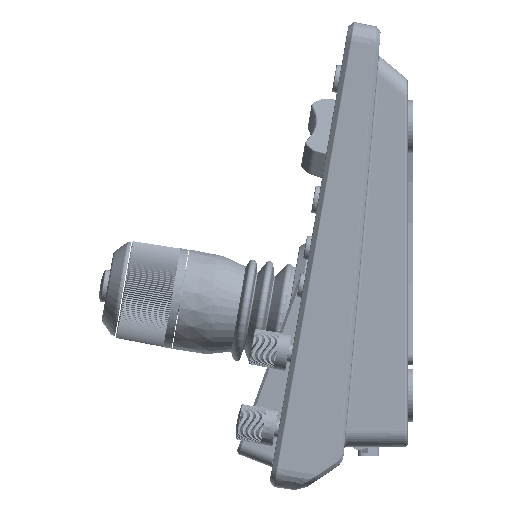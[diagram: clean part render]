
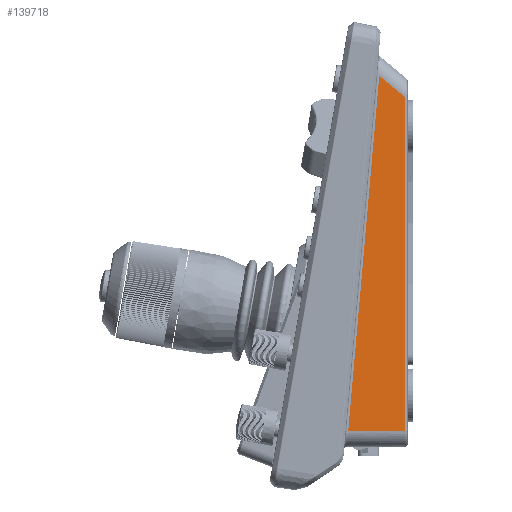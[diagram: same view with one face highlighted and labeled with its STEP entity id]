
A CAD part, left-side view. The second image highlights one B-rep face of the part: STEP entity #139718.
In plain terms, the highlighted planar face has unit normal (-0.999, -0.052, 0).
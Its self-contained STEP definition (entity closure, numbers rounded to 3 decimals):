
#10842=LINE('',#280560,#21297);
#10878=LINE('',#297259,#21333);
#10879=LINE('',#297685,#21334);
#10880=LINE('',#297687,#21335);
#21297=VECTOR('',#189549,126.533);
#21333=VECTOR('',#189771,135.186);
#21334=VECTOR('',#189780,12.722);
#21335=VECTOR('',#189783,21.577);
#33480=FACE_OUTER_BOUND('',#42426,.T.);
#42426=EDGE_LOOP('',(#119106,#119107,#119108,#119109));
#63424=VERTEX_POINT('',#280456);
#63425=VERTEX_POINT('',#280559);
#63566=VERTEX_POINT('',#297256);
#63567=VERTEX_POINT('',#297258);
#82361=EDGE_CURVE('',#63424,#63425,#10842,.T.);
#82569=EDGE_CURVE('',#63567,#63566,#10878,.T.);
#82574=EDGE_CURVE('',#63567,#63424,#10879,.T.);
#82575=EDGE_CURVE('',#63566,#63425,#10880,.T.);
#119106=ORIENTED_EDGE('',*,*,#82361,.F.);
#119107=ORIENTED_EDGE('',*,*,#82574,.F.);
#119108=ORIENTED_EDGE('',*,*,#82569,.T.);
#119109=ORIENTED_EDGE('',*,*,#82575,.T.);
#131936=PLANE('',#154768);
#139718=ADVANCED_FACE('',(#33480),#131936,.T.);
#154768=AXIS2_PLACEMENT_3D('',#297686,#189781,#189782);
#189549=DIRECTION('',(0.,0.,-1.));
#189771=DIRECTION('',(-0.005,0.087,-0.996));
#189780=DIRECTION('',(0.04,-0.768,-0.64));
#189781=DIRECTION('center_axis',(-0.999,-0.052,
0.));
#189782=DIRECTION('ref_axis',(0.,0.,-1.));
#189783=DIRECTION('',(0.052,-0.999,0.));
#280456=CARTESIAN_POINT('',(-144.62,13.778,57.953));
#280559=CARTESIAN_POINT('',(-144.62,13.778,-68.58));
#280560=CARTESIAN_POINT('',(-144.62,13.778,57.953));
#297256=CARTESIAN_POINT('',(-145.749,35.325,-68.58));
#297258=CARTESIAN_POINT('',(-145.131,23.543,66.09));
#297259=CARTESIAN_POINT('',(-145.131,23.543,66.09));
#297685=CARTESIAN_POINT('',(-145.131,23.543,66.09));
#297686=CARTESIAN_POINT('Origin',(-144.57,12.83,-81.24));
#297687=CARTESIAN_POINT('',(-145.749,35.325,-68.58));
